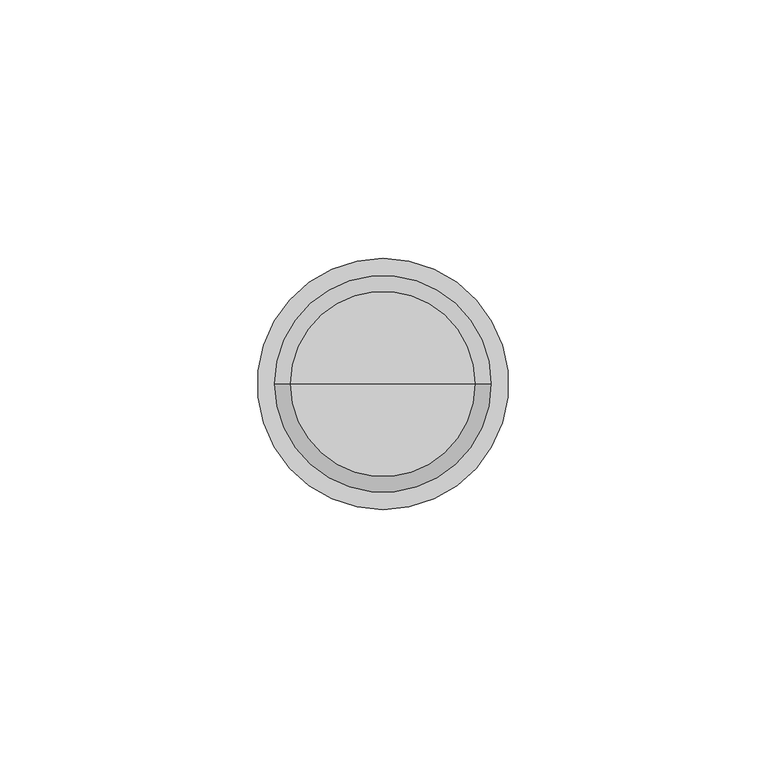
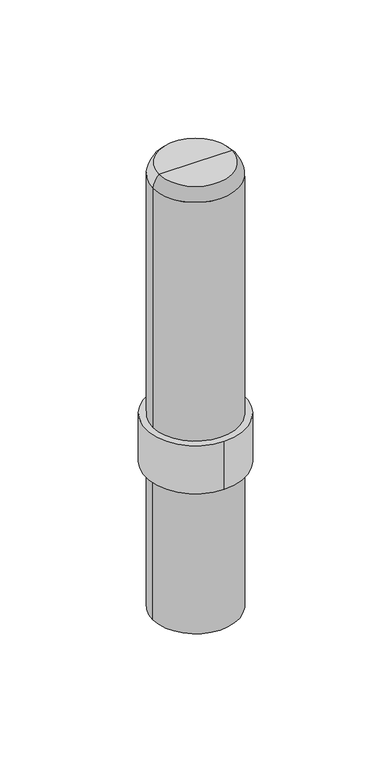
"""IFC4 building model written with IfcOpenShell, lengths in millimetres: proxy geometry, AK_兼用伸縮ブラケット用先端ピン : AK_兼用伸縮ブラケット用先端ピン."""

from ifc_helpers import new_model, si_unit, point, frame, frame_2d, origin, origin_2d, place, context, project, spatial, circle_curve, ellipse_curve, trimmed, segment, composite_curve, outline, extrude, source, transform, mapped, element, save
from ifc_brep_helpers import plane_surface, cylinder_surface, revolved_surface, advanced_brep


def generic_models_ee462c93(model_context):
    return source(origin(), model_context, "Body", "SolidModel", [
        advanced_brep(
        [(-20.95, 0.0, 193.8287409), (20.95, 0.0, 193.8287409), (20.95, 0.0, 70.0), (-20.95, 0.0, 70.0), (-17.9499857, 0.0, 200.0), (17.9499857, 0.0, 200.0), (0.0, 0.0, 200.0), (0.0, 0.0, 70.0)],
        [
            (0, 1, circle_curve(frame((0.0, 0.0, 193.8287409), z_axis=(0.0, 0.0, -1.0), x_axis=(1.0, 0.0, 0.0)), 20.95)),
            (1, 2),
            (2, 3, circle_curve(frame((0.0, 0.0, 70.0), z_axis=(0.0, 0.0, 1.0), x_axis=(1.0, 0.0, 0.0)), 20.95)),
            (3, 0),
            (1, 0, circle_curve(frame((0.0, 0.0, 193.8287409), z_axis=(0.0, 0.0, -1.0), x_axis=(1.0, 0.0, 0.0)), 20.95)),
            (3, 2, circle_curve(frame((0.0, 0.0, 70.0), z_axis=(0.0, 0.0, 1.0), x_axis=(1.0, 0.0, 0.0)), 20.95)),
            (4, 5, circle_curve(frame((0.0, 0.0, 200.0), z_axis=(0.0, 0.0, -1.0), x_axis=(1.0, 0.0, 0.0)), 17.9499857)),
            (5, 1, circle_curve(frame((12.2508, 0.0, 193.41465), z_axis=(0.0, 1.0, 0.0), x_axis=(1.0, 0.0, 0.0)), 8.70905)),
            (0, 4, circle_curve(frame((-12.2508, 0.0, 193.41465), z_axis=(0.0, 1.0, 0.0), x_axis=(-1.0, 0.0, 0.0)), 8.70905)),
            (5, 4, circle_curve(frame((0.0, 0.0, 200.0), z_axis=(0.0, 0.0, -1.0), x_axis=(1.0, 0.0, 0.0)), 17.9499857)),
            (6, 5),
            (4, 6),
            (2, 7),
            (7, 3),
        ],
        [
            cylinder_surface(frame((0.0, 0.0, 45.0), z_axis=(0.0, 0.0, 1.0), x_axis=(1.0, 0.0, 0.0)), 20.95),
            revolved_surface(trimmed(ellipse_curve(frame((12.2508, 0.0, 193.41465), z_axis=(0.0, -1.0, 0.0), x_axis=(1.0, 0.0, 0.0)), 8.70905, 8.70905), [point((20.95, 0.0, 193.8287409))], [point((17.9499857, 0.0, 200.0))], True, "CARTESIAN"), (0.0, 0.0, 45.0), (0.0, 0.0, 1.0)),
            plane_surface(frame((0.0, 0.0, 200.0), z_axis=(0.0, 0.0, 1.0), x_axis=(1.0, 0.0, 0.0))),
            plane_surface(frame((0.0, 0.0, 70.0), z_axis=(0.0, 0.0, -1.0), x_axis=(1.0, 0.0, 0.0))),
        ],
        [
            (0, [[1, 2, 3, 4]]),
            (0, [[5, -4, 6, -2]]),
            (1, [[7, 8, -1, 9]]),
            (1, [[10, -9, -5, -8]]),
            (2, [[11, -7, 12]]),
            (2, [[-12, -10, -11]]),
            (3, [[-3, 13, 14]]),
            (3, [[-6, -14, -13]]),
        ],
    ),
        extrude(outline(composite_curve([segment(trimmed(circle_curve(origin_2d(), 24.3), [point((0.0, 24.3))], [point((0.0, -24.3))], False, "CARTESIAN"), True, "CONTINUOUS"), segment(trimmed(circle_curve(origin_2d(), 24.3), [point((0.0, -24.3))], [point((0.0, 24.3))], False, "CARTESIAN"), True, "CONTINUOUS")], self_intersect=False)), frame((0.0, 0.0, 45.0), z_axis=(0.0, 0.0, 1.0), x_axis=(1.0, 0.0, 0.0)), (0.0, 0.0, 1.0), 25.0),
        extrude(outline(composite_curve([segment(trimmed(circle_curve(frame_2d((0.0016458, 0.0)), 20.9), [point((-20.8983542, 0.0))], [point((20.9016458, 0.0))], False, "CARTESIAN"), True, "CONTINUOUS"), segment(trimmed(circle_curve(frame_2d((0.0016458, 0.0)), 20.9), [point((20.9016458, 0.0))], [point((-20.8983542, 0.0))], False, "CARTESIAN"), True, "CONTINUOUS")], self_intersect=False)), frame((0.0, 0.0, -30.0), z_axis=(0.0, 0.0, 1.0), x_axis=(1.0, 0.0, 0.0)), (0.0, 0.0, 1.0), 75.0),
    ])


if __name__ == "__main__":
    model = new_model("IFC4")
    model_context = context("Model", 3, world=origin())
    ifc_project = project(units=[si_unit("LENGTHUNIT", "METRE", prefix="MILLI")], contexts=[model_context])
    site = spatial("IfcSite", under=ifc_project)
    building = spatial("IfcBuilding", under=site)
    placement = place(None, origin())
    generic_models_shape = generic_models_ee462c93(model_context)
    element("IfcBuildingElementProxy", 1, Name="AK_兼用伸縮ブラケット用先端ピン : AK_兼用伸縮ブラケット用先端ピン", ObjectType="AK_兼用伸縮ブラケット用先端ピン : AK_兼用伸縮ブラケット用先端ピン", at=placement, inside=building, context=model_context, shape_type="MappedRepresentation", body=[
        mapped(generic_models_shape, transform((0.0, 0.0, 0.0), x_axis=(1.0, 0.0, 0.0), y_axis=(0.0, 1.0, 0.0), z_axis=(0.0, 0.0, 1.0))),
    ])
    save(model, "model.ifc")
